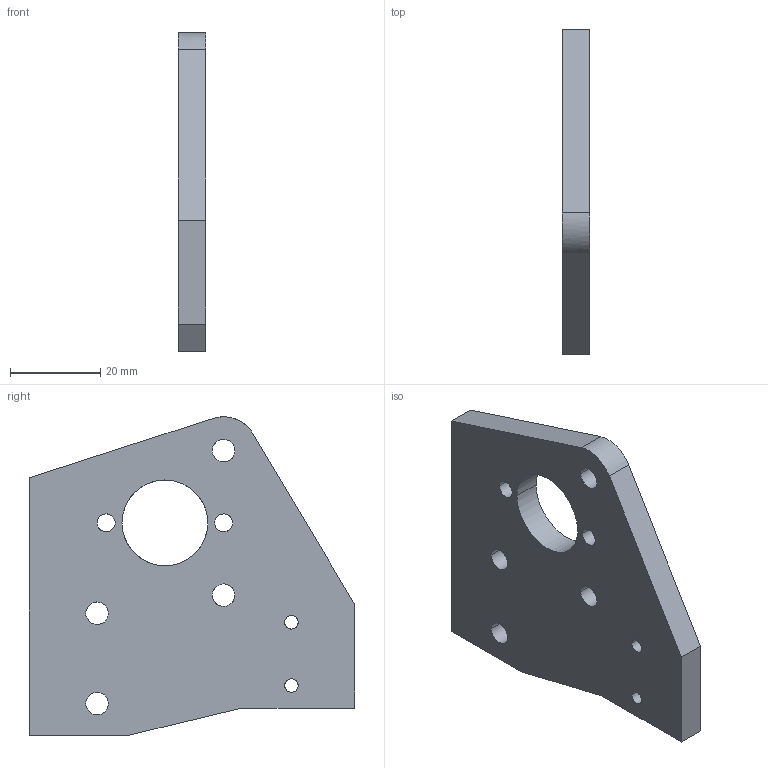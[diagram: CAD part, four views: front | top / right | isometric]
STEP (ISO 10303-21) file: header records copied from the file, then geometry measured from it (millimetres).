
FILE_DESCRIPTION(/* description */ (''),/* implementation_level */ '2;1');
FILE_NAME(/* name */ '6.y-drive#6.4#la-mpk-3',/* time_stamp */ '2014-12-01T20:14:56+01:00',/* author */ (''),/* organization */ (''),/* preprocessor_version */ 'ST-DEVELOPER v14',/* originating_system */ '',/* authorisation */ '');
FILE_SCHEMA (('AUTOMOTIVE_DESIGN'));
Length unit declared in the file: millimetre
Products named in the file (1): Document
Bounding box: 6 x 72 x 70.5 mm (x, y, z)
Volume: 21899.1 mm3; surface area: 9796.9 mm2
Topology: 1 solids, 1 shells, 28 faces, 78 edges, 52 vertices
Faces by surface type: bspline 19, plane 9
Entity records: 2078 total; most frequent: CARTESIAN_POINT 1081, ORIENTED_EDGE 156, PCURVE 156, DEFINITIONAL_REPRESENTATION 156, B_SPLINE_CURVE_WITH_KNOTS 140, SURFACE_CURVE 78, EDGE_CURVE 78, VERTEX_POINT 52
